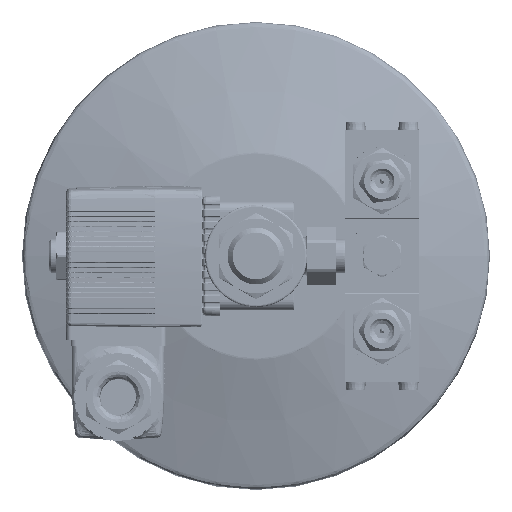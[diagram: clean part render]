
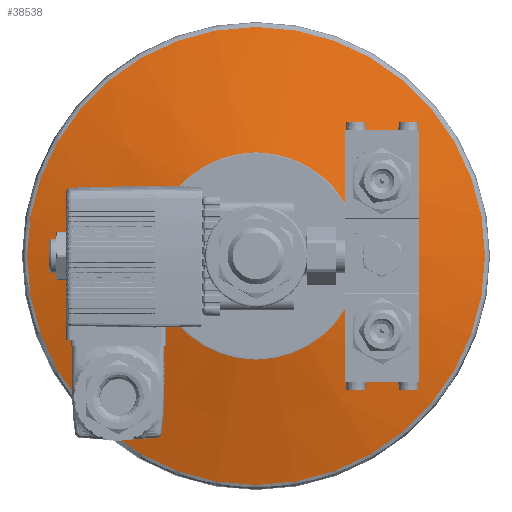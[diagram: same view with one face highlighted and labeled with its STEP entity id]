
A CAD part, left-side view. The second image highlights one B-rep face of the part: STEP entity #38538.
In plain terms, the highlighted conical face has half-angle 75.534 degrees and reference radius 67.225 mm.
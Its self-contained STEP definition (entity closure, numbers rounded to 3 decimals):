
#23239 = CARTESIAN_POINT ( 'NONE',  ( 73.454, -30.425, 0. ) ) ;
#26365 = DIRECTION ( 'NONE',  ( 0., -1., 0. ) ) ;
#32577 = DIRECTION ( 'NONE',  ( 1., 0., 0. ) ) ;
#38538 = ADVANCED_FACE ( 'NONE', ( #188993, #184560 ), #79399, .T. ) ;
#49124 = DIRECTION ( 'NONE',  ( 1., 0., 0. ) ) ;
#52216 = CARTESIAN_POINT ( 'NONE',  ( 73.454, 0., 0. ) ) ;
#58522 = ORIENTED_EDGE ( 'NONE', *, *, #70577, .T. ) ;
#70436 = AXIS2_PLACEMENT_3D ( 'NONE', #94061, #277541, #26365 ) ;
#70577 = EDGE_CURVE ( 'NONE', #93892, #93892, #77668, .T. ) ;
#77668 = CIRCLE ( 'NONE', #236222, 30.425 ) ;
#77770 = DIRECTION ( 'NONE',  ( 0., -1., 0. ) ) ;
#79399 = CONICAL_SURFACE ( 'NONE', #79605, 67.225, 1.318 ) ;
#79605 = AXIS2_PLACEMENT_3D ( 'NONE', #280745, #49124, #276282 ) ;
#93892 = VERTEX_POINT ( 'NONE', #23239 ) ;
#94061 = CARTESIAN_POINT ( 'NONE',  ( 82.948, 0., 0. ) ) ;
#126756 = CARTESIAN_POINT ( 'NONE',  ( 82.948, -67.225, 0. ) ) ;
#143081 = EDGE_CURVE ( 'NONE', #235126, #235126, #161687, .T. ) ;
#161687 = CIRCLE ( 'NONE', #70436, 67.225 ) ;
#184560 = FACE_BOUND ( 'NONE', #249292, .T. ) ;
#188993 = FACE_OUTER_BOUND ( 'NONE', #264133, .T. ) ;
#235126 = VERTEX_POINT ( 'NONE', #126756 ) ;
#236222 = AXIS2_PLACEMENT_3D ( 'NONE', #52216, #32577, #77770 ) ;
#249292 = EDGE_LOOP ( 'NONE', ( #58522 ) ) ;
#264133 = EDGE_LOOP ( 'NONE', ( #273143 ) ) ;
#273143 = ORIENTED_EDGE ( 'NONE', *, *, #143081, .T. ) ;
#276282 = DIRECTION ( 'NONE',  ( 0., 0., -1. ) ) ;
#277541 = DIRECTION ( 'NONE',  ( -1., 0., 0. ) ) ;
#280745 = CARTESIAN_POINT ( 'NONE',  ( 82.948, 0., 0. ) ) ;
